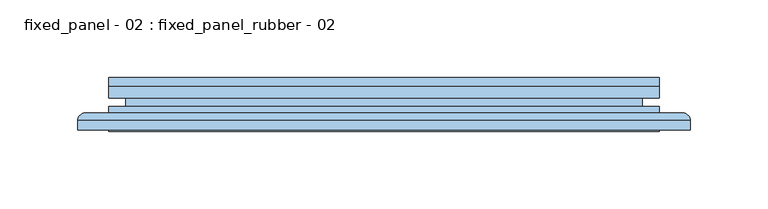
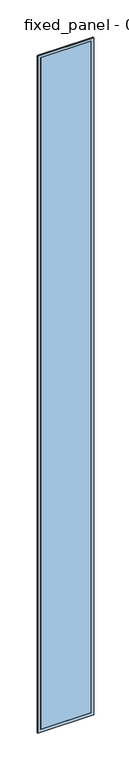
"""IFC4 building model written with IfcOpenShell, lengths in millimetres: window geometry, fixed_panel - 02 : fixed_panel_rubber - 02."""

from ifc_helpers import new_model, si_unit, frame, origin, origin_with_axes, place, context, project, spatial, polyline, ellipse_curve, outline, extrude, faceted_brep, source, transform, mapped, element, save
from ifc_brep_helpers import plane_surface, cylinder_surface, advanced_brep


def fixed_panel_02_fixed_panel_rubber_02_53cac8bb(model_context):
    return source(origin(), model_context, "Body", "SolidModel", [
        advanced_brep(
        [(177.5018696, -27.9878211, 5000.0), (182.5018696, -22.9878211, 5005.0), (182.5018696, -22.9878211, -5.0), (177.5018696, -27.9878211, 0.0), (192.4995476, -22.9878211, -14.9976779), (-192.4995476, -22.9878211, -14.9976779), (-192.4995476, -22.9878211, 5014.9976779), (192.4995476, -22.9878211, 5014.9976779), (-182.5018696, -22.9878211, 5005.0), (-182.5018696, -22.9878211, -5.0), (-177.5018696, -27.9878211, 0.0), (177.5018696, -34.0, 5000.0), (177.5018696, -34.0, 0.0), (-177.5018696, -34.0, 0.0), (197.4952231, -34.0, 5019.9933535), (-197.4952231, -34.0, 5019.9933535), (-197.4952231, -34.0, -19.9933535), (197.4952231, -34.0, -19.9933535), (-177.5018696, -34.0, 5000.0), (197.4952231, -27.9834967, 5019.9933535), (197.4952231, -27.9834967, -19.9933535), (-197.4952231, -27.9834967, -19.9933535), (-177.5018696, -27.9878211, 5000.0), (-197.4952231, -27.9834967, 5019.9933535)],
        [
            (0, 1, ellipse_curve(frame((182.5018696, -27.9878211, 5005.0), z_axis=(0.7071067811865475, 0.0, -0.7071067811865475), x_axis=(0.7071067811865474, 0.0, 0.7071067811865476)), 7.0710678, 5.0)),
            (1, 2),
            (2, 3, ellipse_curve(frame((182.5018696, -27.9878211, -5.0), z_axis=(0.7071067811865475, 0.0, 0.7071067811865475), x_axis=(-0.7071067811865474, 0.0, 0.7071067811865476)), 7.0710678, 5.0)),
            (3, 0),
            (4, 5),
            (5, 6),
            (6, 7),
            (7, 4),
            (1, 8),
            (8, 9),
            (9, 2),
            (9, 10, ellipse_curve(frame((-182.5018696, -27.9878211, -5.0), z_axis=(0.7071067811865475, 0.0, -0.7071067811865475), x_axis=(0.7071067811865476, 0.0, 0.7071067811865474)), 7.0710678, 5.0)),
            (10, 3),
            (11, 0),
            (3, 12),
            (12, 11),
            (10, 13),
            (13, 12),
            (14, 15),
            (15, 16),
            (16, 17),
            (17, 14),
            (13, 18),
            (18, 11),
            (19, 14),
            (17, 20),
            (20, 19),
            (16, 21),
            (21, 20),
            (7, 19, ellipse_curve(frame((192.4995476, -27.9834967, 5014.9976779), z_axis=(0.7071067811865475, 0.0, -0.7071067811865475), x_axis=(0.7071067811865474, 0.0, 0.7071067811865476)), 7.0649521, 4.9956756)),
            (20, 4, ellipse_curve(frame((192.4995476, -27.9834967, -14.9976779), z_axis=(0.7071067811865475, 0.0, 0.7071067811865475), x_axis=(-0.7071067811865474, 0.0, 0.7071067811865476)), 7.0649521, 4.9956756)),
            (21, 5, ellipse_curve(frame((-192.4995476, -27.9834967, -14.9976779), z_axis=(0.7071067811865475, 0.0, -0.7071067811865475), x_axis=(0.7071067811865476, 0.0, 0.7071067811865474)), 7.0649521, 4.9956756)),
            (8, 22, ellipse_curve(frame((-182.5018696, -27.9878211, 5005.0), z_axis=(-0.7071067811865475, 0.0, -0.7071067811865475), x_axis=(0.7071067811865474, 0.0, -0.7071067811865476)), 7.0710678, 5.0)),
            (22, 10),
            (22, 18),
            (15, 23),
            (23, 21),
            (23, 6, ellipse_curve(frame((-192.4995476, -27.9834967, 5014.9976779), z_axis=(-0.7071067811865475, 0.0, -0.7071067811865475), x_axis=(0.7071067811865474, 0.0, -0.7071067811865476)), 7.0649521, 4.9956756)),
            (0, 22),
            (19, 23),
        ],
        [
            cylinder_surface(frame((182.5018696, -27.9878211, 5000.0), z_axis=(0.0, 0.0, 1.0), x_axis=(1.0, 0.0, 0.0)), 5.0),
            plane_surface(frame((-192.4995476, -22.9878211, 5014.9976779), z_axis=(0.0, 1.0, 0.0), x_axis=(1.0, 0.0, 0.0))),
            cylinder_surface(frame((177.5018696, -27.9878211, -5.0), z_axis=(1.0, 0.0, 0.0), x_axis=(0.0, 0.0, -1.0)), 5.0),
            plane_surface(frame((177.5018696, -27.9878211, 5000.0), z_axis=(-1.0, 0.0, 0.0), x_axis=(0.0, 0.0, -1.0))),
            plane_surface(frame((177.5018696, -27.9878211, 0.0), z_axis=(0.0, 0.0, 1.0), x_axis=(-1.0, 0.0, 0.0))),
            plane_surface(frame((-177.5018696, -34.0, 5000.0), z_axis=(0.0, -1.0, 0.0), x_axis=(1.0, 0.0, 0.0))),
            plane_surface(frame((197.4952231, -34.0, 5019.9933535), z_axis=(1.0, 0.0, 0.0), x_axis=(0.0, 0.0, -1.0))),
            plane_surface(frame((197.4952231, -34.0, -19.9933535), z_axis=(0.0, 0.0, -1.0), x_axis=(-1.0, 0.0, 0.0))),
            cylinder_surface(frame((192.4995476, -27.9834967, 5000.0), z_axis=(0.0, 0.0, 1.0), x_axis=(1.0, 0.0, 0.0)), 4.9956756),
            cylinder_surface(frame((177.5018696, -27.9834967, -14.9976779), z_axis=(1.0, 0.0, 0.0), x_axis=(0.0, 0.0, -1.0)), 4.9956756),
            cylinder_surface(frame((-182.5018696, -27.9878211, 0.0), z_axis=(0.0, 0.0, -1.0), x_axis=(-1.0, 0.0, 0.0)), 5.0),
            plane_surface(frame((-177.5018696, -27.9878211, 0.0), z_axis=(1.0, 0.0, 0.0), x_axis=(0.0, 0.0, 1.0))),
            plane_surface(frame((-197.4952231, -34.0, -19.9933535), z_axis=(-1.0, 0.0, 0.0), x_axis=(0.0, 0.0, 1.0))),
            cylinder_surface(frame((-192.4995476, -27.9834967, 0.0), z_axis=(0.0, 0.0, -1.0), x_axis=(-1.0, 0.0, 0.0)), 4.9956756),
            cylinder_surface(frame((-177.5018696, -27.9878211, 5005.0), z_axis=(-1.0, 0.0, 0.0), x_axis=(0.0, 0.0, 1.0)), 5.0),
            plane_surface(frame((-177.5018696, -27.9878211, 5000.0), z_axis=(0.0, 0.0, -1.0), x_axis=(1.0, 0.0, 0.0))),
            plane_surface(frame((-197.4952231, -34.0, 5019.9933535), z_axis=(0.0, 0.0, 1.0), x_axis=(1.0, 0.0, 0.0))),
            cylinder_surface(frame((-177.5018696, -27.9834967, 5014.9976779), z_axis=(-1.0, 0.0, 0.0), x_axis=(0.0, 0.0, 1.0)), 4.9956756),
        ],
        [
            (0, [[1, 2, 3, 4]]),
            (1, [[5, 6, 7, 8], [9, 10, 11, -2]]),
            (2, [[-3, -11, 12, 13]]),
            (3, [[14, -4, 15, 16]]),
            (4, [[-15, -13, 17, 18]]),
            (5, [[19, 20, 21, 22], [-18, 23, 24, -16]]),
            (6, [[25, -22, 26, 27]]),
            (7, [[-26, -21, 28, 29]]),
            (8, [[30, -27, 31, -8]]),
            (9, [[-31, -29, 32, -5]]),
            (10, [[-12, -10, 33, 34]]),
            (11, [[-17, -34, 35, -23]]),
            (12, [[-28, -20, 36, 37]]),
            (13, [[-32, -37, 38, -6]]),
            (14, [[-33, -9, -1, 39]]),
            (15, [[-35, -39, -14, -24]]),
            (16, [[-36, -19, -25, 40]]),
            (17, [[-38, -40, -30, -7]]),
        ],
    ),
        faceted_brep([(151.5018696, -26.0, 4974.0), (151.5018696, -6.0, 4974.0), (151.5018696, -6.0, 26.0), (151.5018696, -26.0, 26.0), (177.5018696, -6.0, 0.0), (-177.5018696, -6.0, 0.0), (-177.5018696, -6.0, 5000.0), (177.5018696, -6.0, 5000.0), (-151.5018696, -6.0, 4974.0), (-151.5018696, -6.0, 26.0), (-151.5018696, -26.0, 26.0), (177.5018696, -26.0, 5000.0), (-177.5018696, -26.0, 5000.0), (-177.5018696, -26.0, 0.0), (177.5018696, -26.0, 0.0), (-151.5018696, -26.0, 4974.0), (177.5018696, -18.8, 5000.0), (177.5018696, -18.8, 0.0), (-177.5018696, -18.8, 0.0), (-177.5018696, -18.8, 5000.0), (166.5018696, -18.8, 4989.0), (-166.5018696, -18.8, 4989.0), (-166.5018696, -18.8, 11.0), (166.5018696, -18.8, 11.0), (166.5018696, -13.2, 4989.0), (166.5018696, -13.2, 11.0), (-166.5018696, -13.2, 11.0), (177.5018696, -13.2, 5000.0), (-177.5018696, -13.2, 5000.0), (-177.5018696, -13.2, 0.0), (177.5018696, -13.2, 0.0), (-166.5018696, -13.2, 4989.0)], [[[0, 1, 2, 3]], [[4, 5, 6, 7], [1, 8, 9, 2]], [[3, 2, 9, 10]], [[11, 12, 13, 14], [3, 10, 15, 0]], [[16, 11, 14, 17]], [[17, 14, 13, 18]], [[17, 18, 19, 16], [20, 21, 22, 23]], [[24, 20, 23, 25]], [[25, 23, 22, 26]], [[27, 28, 29, 30], [25, 26, 31, 24]], [[7, 27, 30, 4]], [[4, 30, 29, 5]], [[10, 9, 8, 15]], [[18, 13, 12, 19]], [[26, 22, 21, 31]], [[5, 29, 28, 6]], [[15, 8, 1, 0]], [[19, 12, 11, 16]], [[31, 21, 20, 24]], [[6, 28, 27, 7]]]),
        extrude(outline(polyline([(177.5018696, -34.0), (-177.5018696, -34.0), (-177.5018696, -26.0), (177.5018696, -26.0), (177.5018696, -34.0)])), origin_with_axes(), (0.0, 0.0, 1.0), 5000.0),
        extrude(outline(polyline([(177.5018696, -6.0), (-177.5018696, -6.0), (-177.5018696, 0.0), (177.5018696, 0.0), (177.5018696, -6.0)])), origin_with_axes(), (0.0, 0.0, 1.0), 5000.0),
    ])


if __name__ == "__main__":
    model = new_model("IFC4")
    model_context = context("Model", 3, world=origin())
    ifc_project = project(units=[si_unit("LENGTHUNIT", "METRE", prefix="MILLI")], contexts=[model_context])
    site = spatial("IfcSite", under=ifc_project)
    building = spatial("IfcBuilding", under=site)
    placement = place(None, origin())
    fixed_panel_02_fixed_panel_rubber_02_shape = fixed_panel_02_fixed_panel_rubber_02_53cac8bb(model_context)
    element("IfcWindow", 1, ObjectType="fixed_panel - 02 : fixed_panel_rubber - 02", at=placement, inside=building, context=model_context, shape_type="MappedRepresentation", body=[
        mapped(fixed_panel_02_fixed_panel_rubber_02_shape, transform((0.0, 0.0, 0.0), x_axis=(1.0, 0.0, 0.0), y_axis=(0.0, 1.0, 0.0), z_axis=(0.0, 0.0, 1.0))),
    ])
    save(model, "model.ifc")
